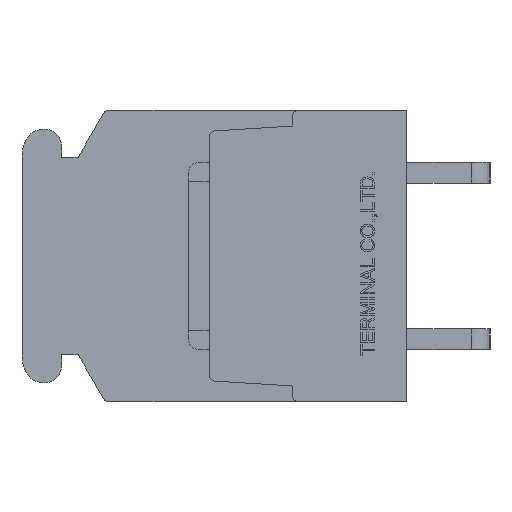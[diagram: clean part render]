
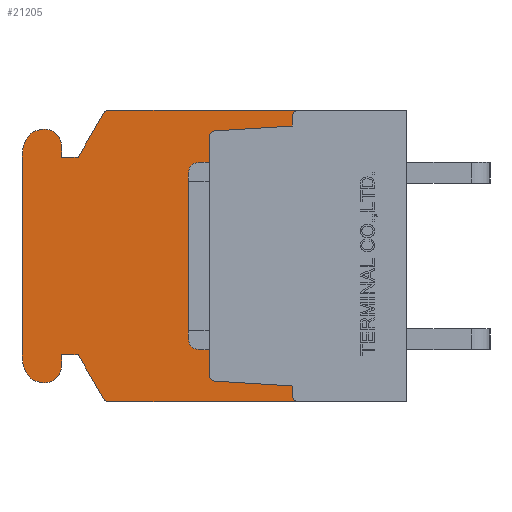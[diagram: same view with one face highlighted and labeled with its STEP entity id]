
A CAD part, left-side view. The second image highlights one B-rep face of the part: STEP entity #21205.
In plain terms, the highlighted planar face has unit normal (-1, 0, 0).
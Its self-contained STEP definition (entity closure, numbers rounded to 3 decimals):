
#396=CIRCLE('',#21605,0.3);
#397=CIRCLE('',#21609,0.3);
#398=CIRCLE('',#21611,0.3);
#399=CIRCLE('',#21615,0.3);
#784=CIRCLE('',#22742,0.3);
#785=CIRCLE('',#22743,0.8);
#786=CIRCLE('',#22744,1.);
#787=CIRCLE('',#22745,2.);
#788=CIRCLE('',#22746,2.);
#789=CIRCLE('',#22747,1.);
#790=CIRCLE('',#22748,0.8);
#791=CIRCLE('',#22749,0.3);
#1164=VERTEX_POINT('',#27550);
#1165=VERTEX_POINT('',#27551);
#1518=VERTEX_POINT('',#29072);
#1519=VERTEX_POINT('',#29076);
#1520=VERTEX_POINT('',#29080);
#1521=VERTEX_POINT('',#29084);
#1522=VERTEX_POINT('',#29088);
#1523=VERTEX_POINT('',#29089);
#1524=VERTEX_POINT('',#29094);
#1525=VERTEX_POINT('',#29098);
#2597=VERTEX_POINT('',#32364);
#2632=VERTEX_POINT('',#32471);
#2906=VERTEX_POINT('',#33340);
#2907=VERTEX_POINT('',#33342);
#2908=VERTEX_POINT('',#33344);
#2909=VERTEX_POINT('',#33346);
#2910=VERTEX_POINT('',#33348);
#2911=VERTEX_POINT('',#33350);
#2912=VERTEX_POINT('',#33352);
#2913=VERTEX_POINT('',#33354);
#2914=VERTEX_POINT('',#33356);
#2915=VERTEX_POINT('',#33358);
#2916=VERTEX_POINT('',#33360);
#2917=VERTEX_POINT('',#33362);
#2918=VERTEX_POINT('',#33364);
#2919=VERTEX_POINT('',#33366);
#2920=VERTEX_POINT('',#33368);
#2921=VERTEX_POINT('',#33370);
#3306=VECTOR('',#22981,1.);
#3715=VECTOR('',#23537,1.);
#3717=VECTOR('',#23540,1.);
#3722=VECTOR('',#23554,1.);
#3724=VECTOR('',#23557,1.);
#4846=VECTOR('',#26056,1.);
#4883=VECTOR('',#26151,1.);
#5217=VECTOR('',#26786,1.);
#5218=VECTOR('',#26787,1.);
#5219=VECTOR('',#26788,1.);
#5220=VECTOR('',#26791,1.);
#5221=VECTOR('',#26796,1.);
#5222=VECTOR('',#26801,1.);
#5223=VECTOR('',#26804,1.);
#5224=VECTOR('',#26805,1.);
#5225=VECTOR('',#26806,1.);
#5672=LINE('',#27549,#3306);
#6081=LINE('',#29075,#3715);
#6083=LINE('',#29079,#3717);
#6088=LINE('',#29093,#3722);
#6090=LINE('',#29097,#3724);
#7212=LINE('',#32365,#4846);
#7249=LINE('',#32470,#4883);
#7583=LINE('',#33341,#5217);
#7584=LINE('',#33343,#5218);
#7585=LINE('',#33345,#5219);
#7586=LINE('',#33349,#5220);
#7587=LINE('',#33355,#5221);
#7588=LINE('',#33361,#5222);
#7589=LINE('',#33365,#5223);
#7590=LINE('',#33367,#5224);
#7591=LINE('',#33369,#5225);
#8038=EDGE_CURVE('',#1164,#1165,#5672,.T.);
#8556=EDGE_CURVE('',#1518,#1164,#396,.T.);
#8558=EDGE_CURVE('',#1519,#1518,#6081,.T.);
#8560=EDGE_CURVE('',#1520,#1519,#6083,.T.);
#8562=EDGE_CURVE('',#1521,#1520,#397,.T.);
#8564=EDGE_CURVE('',#1522,#1523,#398,.T.);
#8567=EDGE_CURVE('',#1524,#1522,#6088,.T.);
#8569=EDGE_CURVE('',#1525,#1524,#6090,.T.);
#8571=EDGE_CURVE('',#1165,#1525,#399,.T.);
#10132=EDGE_CURVE('',#2597,#1523,#7212,.T.);
#10185=EDGE_CURVE('',#1521,#2632,#7249,.T.);
#10653=EDGE_CURVE('',#2906,#2597,#784,.T.);
#10654=EDGE_CURVE('',#2907,#2906,#7583,.T.);
#10655=EDGE_CURVE('',#2908,#2907,#7584,.T.);
#10656=EDGE_CURVE('',#2909,#2908,#7585,.T.);
#10657=EDGE_CURVE('',#2910,#2909,#785,.T.);
#10658=EDGE_CURVE('',#2911,#2910,#7586,.T.);
#10659=EDGE_CURVE('',#2912,#2911,#786,.T.);
#10660=EDGE_CURVE('',#2913,#2912,#787,.T.);
#10661=EDGE_CURVE('',#2914,#2913,#7587,.T.);
#10662=EDGE_CURVE('',#2915,#2914,#788,.T.);
#10663=EDGE_CURVE('',#2916,#2915,#789,.T.);
#10664=EDGE_CURVE('',#2917,#2916,#7588,.T.);
#10665=EDGE_CURVE('',#2918,#2917,#790,.T.);
#10666=EDGE_CURVE('',#2919,#2918,#7589,.T.);
#10667=EDGE_CURVE('',#2920,#2919,#7590,.T.);
#10668=EDGE_CURVE('',#2921,#2920,#7591,.T.);
#10669=EDGE_CURVE('',#2632,#2921,#791,.T.);
#16445=ORIENTED_EDGE('',*,*,#8564,.T.);
#16446=ORIENTED_EDGE('',*,*,#10132,.F.);
#16447=ORIENTED_EDGE('',*,*,#10653,.F.);
#16448=ORIENTED_EDGE('',*,*,#10654,.F.);
#16449=ORIENTED_EDGE('',*,*,#10655,.F.);
#16450=ORIENTED_EDGE('',*,*,#10656,.F.);
#16451=ORIENTED_EDGE('',*,*,#10657,.F.);
#16452=ORIENTED_EDGE('',*,*,#10658,.F.);
#16453=ORIENTED_EDGE('',*,*,#10659,.F.);
#16454=ORIENTED_EDGE('',*,*,#10660,.F.);
#16455=ORIENTED_EDGE('',*,*,#10661,.F.);
#16456=ORIENTED_EDGE('',*,*,#10662,.F.);
#16457=ORIENTED_EDGE('',*,*,#10663,.F.);
#16458=ORIENTED_EDGE('',*,*,#10664,.F.);
#16459=ORIENTED_EDGE('',*,*,#10665,.F.);
#16460=ORIENTED_EDGE('',*,*,#10666,.F.);
#16461=ORIENTED_EDGE('',*,*,#10667,.F.);
#16462=ORIENTED_EDGE('',*,*,#10668,.F.);
#16463=ORIENTED_EDGE('',*,*,#10669,.F.);
#16464=ORIENTED_EDGE('',*,*,#10185,.F.);
#16465=ORIENTED_EDGE('',*,*,#8562,.T.);
#16466=ORIENTED_EDGE('',*,*,#8560,.T.);
#16467=ORIENTED_EDGE('',*,*,#8558,.T.);
#16468=ORIENTED_EDGE('',*,*,#8556,.T.);
#16469=ORIENTED_EDGE('',*,*,#8038,.T.);
#16470=ORIENTED_EDGE('',*,*,#8571,.T.);
#16471=ORIENTED_EDGE('',*,*,#8569,.T.);
#16472=ORIENTED_EDGE('',*,*,#8567,.T.);
#18704=EDGE_LOOP('',(#16445,#16446,#16447,#16448,#16449,#16450,#16451,#16452,
#16453,#16454,#16455,#16456,#16457,#16458,#16459,#16460,#16461,#16462,#16463,
#16464,#16465,#16466,#16467,#16468,#16469,#16470,#16471,#16472));
#20002=FACE_BOUND('',#18704,.T.);
#21205=ADVANCED_FACE('',(#20002),#35698,.F.);
#21605=AXIS2_PLACEMENT_3D('',#29071,#23533,#23534);
#21609=AXIS2_PLACEMENT_3D('',#29083,#23544,#23545);
#21611=AXIS2_PLACEMENT_3D('',#29087,#23549,#23550);
#21615=AXIS2_PLACEMENT_3D('',#29101,#23561,#23562);
#22741=AXIS2_PLACEMENT_3D('',#33338,#26783,$);
#22742=AXIS2_PLACEMENT_3D('',#33339,#26784,#26785);
#22743=AXIS2_PLACEMENT_3D('',#33347,#26789,#26790);
#22744=AXIS2_PLACEMENT_3D('',#33351,#26792,#26793);
#22745=AXIS2_PLACEMENT_3D('',#33353,#26794,#26795);
#22746=AXIS2_PLACEMENT_3D('',#33357,#26797,#26798);
#22747=AXIS2_PLACEMENT_3D('',#33359,#26799,#26800);
#22748=AXIS2_PLACEMENT_3D('',#33363,#26802,#26803);
#22749=AXIS2_PLACEMENT_3D('',#33371,#26807,#26808);
#22981=DIRECTION('',(0.,0.,1.));
#23533=DIRECTION('',(1.,0.,0.));
#23534=DIRECTION('',(0.,0.,-0.3));
#23537=DIRECTION('',(0.,0.998,0.062));
#23540=DIRECTION('',(0.,0.,1.));
#23544=DIRECTION('',(1.,0.,0.));
#23545=DIRECTION('',(0.,0.,-0.3));
#23549=DIRECTION('',(1.,0.,0.));
#23550=DIRECTION('',(0.,0.,-0.3));
#23554=DIRECTION('',(0.,0.,1.));
#23557=DIRECTION('',(0.,-0.998,0.062));
#23561=DIRECTION('',(1.,0.,0.));
#23562=DIRECTION('',(0.,0.,-0.3));
#26056=DIRECTION('',(0.,-1.,0.));
#26151=DIRECTION('',(0.,1.,0.));
#26783=DIRECTION('',(1.,0.,0.));
#26784=DIRECTION('',(1.,0.,0.));
#26785=DIRECTION('',(0.,0.,-0.3));
#26786=DIRECTION('',(0.,-0.5,0.866));
#26787=DIRECTION('',(0.,-1.,0.));
#26788=DIRECTION('',(0.,0.,-1.));
#26789=DIRECTION('',(1.,0.,0.));
#26790=DIRECTION('',(0.,0.,-0.8));
#26791=DIRECTION('',(0.,-1.,0.));
#26792=DIRECTION('',(1.,0.,0.));
#26793=DIRECTION('',(0.,0.,-1.));
#26794=DIRECTION('',(1.,0.,0.));
#26795=DIRECTION('',(0.,0.,-2.));
#26796=DIRECTION('',(0.,0.,1.));
#26797=DIRECTION('',(1.,0.,0.));
#26798=DIRECTION('',(0.,0.,-2.));
#26799=DIRECTION('',(1.,0.,0.));
#26800=DIRECTION('',(0.,0.,-1.));
#26801=DIRECTION('',(0.,1.,0.));
#26802=DIRECTION('',(1.,0.,0.));
#26803=DIRECTION('',(0.,0.,-0.8));
#26804=DIRECTION('',(0.,0.,-1.));
#26805=DIRECTION('',(0.,1.,0.));
#26806=DIRECTION('',(0.,0.5,0.866));
#26807=DIRECTION('',(1.,0.,0.));
#26808=DIRECTION('',(0.,0.,-0.3));
#27549=CARTESIAN_POINT('',(8.15,9.5,0.));
#27550=CARTESIAN_POINT('',(8.15,9.5,-5.718));
#27551=CARTESIAN_POINT('',(8.15,9.5,5.718));
#29071=CARTESIAN_POINT('',(8.15,9.2,-5.718));
#29072=CARTESIAN_POINT('',(8.15,9.219,-6.018));
#29075=CARTESIAN_POINT('',(8.15,8.522,-6.061));
#29076=CARTESIAN_POINT('',(8.15,5.5,-6.25));
#29079=CARTESIAN_POINT('',(8.15,5.5,-3.237));
#29080=CARTESIAN_POINT('',(8.15,5.5,-6.7));
#29083=CARTESIAN_POINT('',(8.15,5.2,-6.7));
#29084=CARTESIAN_POINT('',(8.15,5.2,-7.));
#29087=CARTESIAN_POINT('',(8.15,5.2,6.7));
#29088=CARTESIAN_POINT('',(8.15,5.5,6.7));
#29089=CARTESIAN_POINT('',(8.15,5.2,7.));
#29093=CARTESIAN_POINT('',(8.15,5.5,3.238));
#29094=CARTESIAN_POINT('',(8.15,5.5,6.25));
#29097=CARTESIAN_POINT('',(8.15,8.522,6.061));
#29098=CARTESIAN_POINT('',(8.15,9.219,6.018));
#29101=CARTESIAN_POINT('',(8.15,9.2,5.718));
#32364=CARTESIAN_POINT('',(8.15,14.327,7.));
#32365=CARTESIAN_POINT('',(8.15,14.327,7.));
#32470=CARTESIAN_POINT('',(8.15,0.,-7.));
#32471=CARTESIAN_POINT('',(8.15,14.327,-7.));
#33338=CARTESIAN_POINT('',(8.15,9.311,0.));
#33339=CARTESIAN_POINT('',(8.15,14.327,6.7));
#33340=CARTESIAN_POINT('',(8.15,14.587,6.85));
#33341=CARTESIAN_POINT('',(8.15,15.8,4.75));
#33342=CARTESIAN_POINT('',(8.15,15.8,4.75));
#33343=CARTESIAN_POINT('',(8.15,16.6,4.75));
#33344=CARTESIAN_POINT('',(8.15,16.6,4.75));
#33345=CARTESIAN_POINT('',(8.15,16.6,5.3));
#33346=CARTESIAN_POINT('',(8.15,16.6,5.3));
#33347=CARTESIAN_POINT('',(8.15,17.4,5.3));
#33348=CARTESIAN_POINT('',(8.15,17.4,6.1));
#33349=CARTESIAN_POINT('',(8.15,17.437,6.1));
#33350=CARTESIAN_POINT('',(8.15,17.437,6.1));
#33351=CARTESIAN_POINT('',(8.15,17.437,5.1));
#33352=CARTESIAN_POINT('',(8.15,18.373,5.45));
#33353=CARTESIAN_POINT('',(8.15,16.5,4.75));
#33354=CARTESIAN_POINT('',(8.15,18.5,4.75));
#33355=CARTESIAN_POINT('',(8.15,18.5,-4.75));
#33356=CARTESIAN_POINT('',(8.15,18.5,-4.75));
#33357=CARTESIAN_POINT('',(8.15,16.5,-4.75));
#33358=CARTESIAN_POINT('',(8.15,18.373,-5.45));
#33359=CARTESIAN_POINT('',(8.15,17.437,-5.1));
#33360=CARTESIAN_POINT('',(8.15,17.437,-6.1));
#33361=CARTESIAN_POINT('',(8.15,17.4,-6.1));
#33362=CARTESIAN_POINT('',(8.15,17.4,-6.1));
#33363=CARTESIAN_POINT('',(8.15,17.4,-5.3));
#33364=CARTESIAN_POINT('',(8.15,16.6,-5.3));
#33365=CARTESIAN_POINT('',(8.15,16.6,-4.75));
#33366=CARTESIAN_POINT('',(8.15,16.6,-4.75));
#33367=CARTESIAN_POINT('',(8.15,15.8,-4.75));
#33368=CARTESIAN_POINT('',(8.15,15.8,-4.75));
#33369=CARTESIAN_POINT('',(8.15,14.587,-6.85));
#33370=CARTESIAN_POINT('',(8.15,14.587,-6.85));
#33371=CARTESIAN_POINT('',(8.15,14.327,-6.7));
#35698=PLANE('',#22741);
